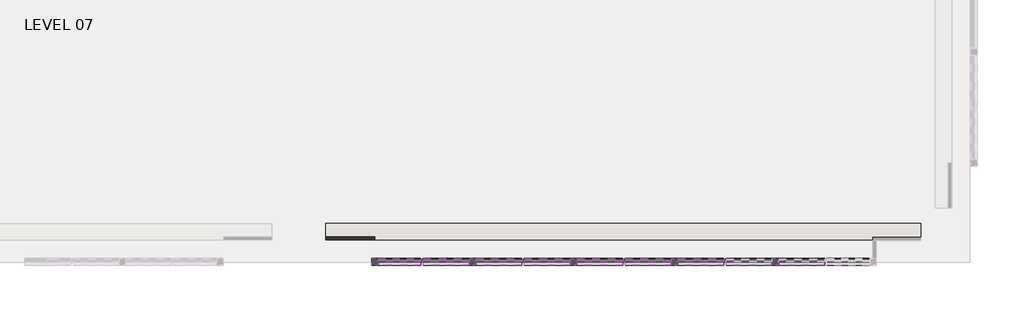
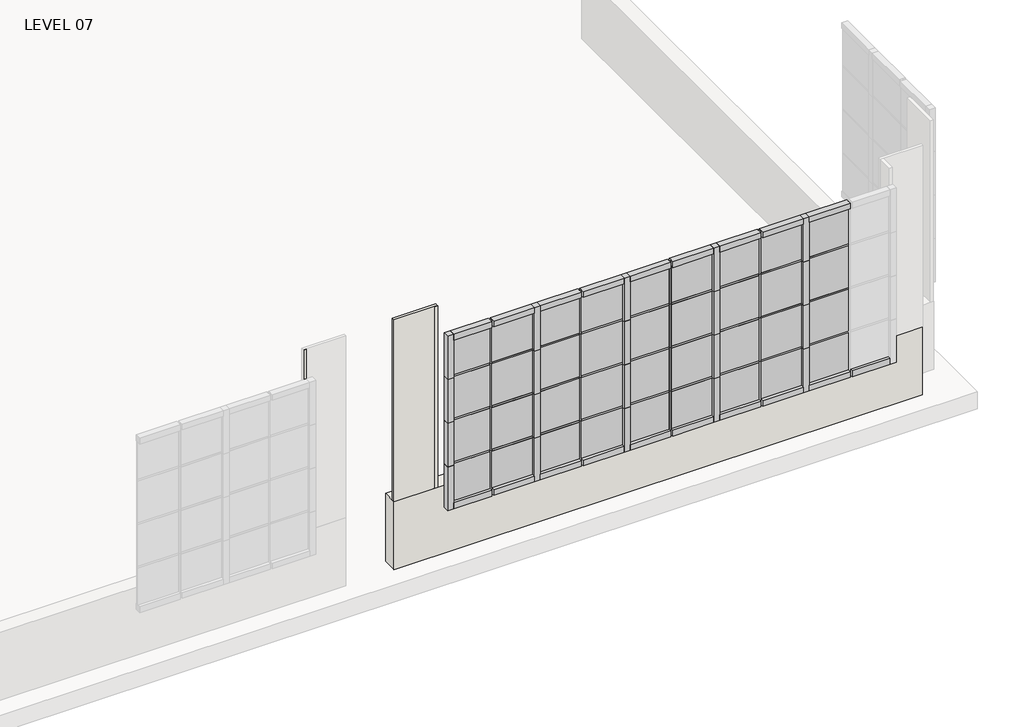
# One storey, part 6 of 15: 80 members, 36 plates, 4 walls.
"""IFC4 building model written with IfcOpenShell, lengths in millimetres."""

from ifc_helpers import new_model, si_unit, frame, origin, place, context, project, spatial, polyline, outline, extrude, faceted_brep, transform, mapped, element, save
from components import member_78bb2ef1, member_cb03ba1c, member_aa53491b, member_c1b5942e, member_9d26962d, member_378e0c06, member_17eb62f4, system_panel_glazed_79ade883, system_panel_glazed_12cc9f41, system_panel_glazed_730530c4, system_panel_glazed_b8d6571b

model = new_model("IFC4")

# Units and contexts
model_context = context("Model", 3, world=origin())
ifc_project = project(units=[si_unit("LENGTHUNIT", "METRE", prefix="MILLI")], contexts=[model_context])

# Site, building, storey
site = spatial("IfcSite", under=ifc_project)
building = spatial("IfcBuilding", under=site)
storey = spatial("IfcBuildingStorey", under=building, Name="LEVEL 07", Elevation=20802.6)

# Members
placement = place(None, origin())
member_shape = member_78bb2ef1(model_context)
element("IfcMember", 1, ObjectType="Rectangular Mullion : 1\" x 1\" - Butt Joint", at=placement, inside=storey, context=model_context, shape_type="MappedRepresentation", body=[
    mapped(member_shape, transform((-6655.9871136, -25119.8112062, 23342.6), x_axis=(1.0, 0.0, 0.0), y_axis=(0.0, -1.0, 0.0), z_axis=(0.0, 0.0, -1.0))),
])
element("IfcMember", 2, ObjectType="Rectangular Mullion : 1\" x 1\" - Butt Joint", at=placement, inside=storey, context=model_context, shape_type="MappedRepresentation", body=[
    mapped(member_shape, transform((-5518.0671136, -25119.8112062, 23342.6), x_axis=(1.0, 0.0, 0.0), y_axis=(0.0, -1.0, 0.0), z_axis=(0.0, 0.0, -1.0))),
])
element("IfcMember", 3, ObjectType="Rectangular Mullion : 1\" x 1\" - Butt Joint", at=placement, inside=storey, context=model_context, shape_type="MappedRepresentation", body=[
    mapped(member_shape, transform((-4380.1471136, -25119.8112062, 23342.6), x_axis=(1.0, 0.0, 0.0), y_axis=(0.0, -1.0, 0.0), z_axis=(0.0, 0.0, -1.0))),
])
element("IfcMember", 4, ObjectType="Rectangular Mullion : 1\" x 1\" - Butt Joint", at=placement, inside=storey, context=model_context, shape_type="MappedRepresentation", body=[
    mapped(member_shape, transform((-3242.2271136, -25119.8112062, 23342.6), x_axis=(1.0, 0.0, 0.0), y_axis=(0.0, -1.0, 0.0), z_axis=(0.0, 0.0, -1.0))),
])
member_2_shape = member_cb03ba1c(model_context)
element("IfcMember", 5, ObjectType="Rectangular Mullion : 1\" x 1\" - Butt Joint", at=placement, inside=storey, context=model_context, shape_type="MappedRepresentation", body=[
    mapped(member_2_shape, transform((-2711.3671136, -25119.8112062, 23342.6), x_axis=(0.0, 0.0, 1.0), y_axis=(0.0, -1.0, 0.0), z_axis=(1.0, 0.0, 0.0))),
])
element("IfcMember", 6, ObjectType="Rectangular Mullion : 1\" x 1\" - Butt Joint", at=placement, inside=storey, context=model_context, shape_type="MappedRepresentation", body=[
    mapped(member_2_shape, transform((-3849.2871136, -25119.8112062, 23342.6), x_axis=(0.0, 0.0, 1.0), y_axis=(0.0, -1.0, 0.0), z_axis=(1.0, 0.0, 0.0))),
])
element("IfcMember", 7, ObjectType="Rectangular Mullion : 1\" x 1\" - Butt Joint", at=placement, inside=storey, context=model_context, shape_type="MappedRepresentation", body=[
    mapped(member_2_shape, transform((-4987.2071136, -25119.8112062, 23342.6), x_axis=(0.0, 0.0, 1.0), y_axis=(0.0, -1.0, 0.0), z_axis=(1.0, 0.0, 0.0))),
])
element("IfcMember", 8, ObjectType="Rectangular Mullion : 1\" x 1\" - Butt Joint", at=placement, inside=storey, context=model_context, shape_type="MappedRepresentation", body=[
    mapped(member_2_shape, transform((-6125.1271136, -25119.8112062, 23342.6), x_axis=(0.0, 0.0, 1.0), y_axis=(0.0, -1.0, 0.0), z_axis=(1.0, 0.0, 0.0))),
])
element("IfcMember", 9, ObjectType="Rectangular Mullion : 1\" x 1\" - Butt Joint", at=placement, inside=storey, context=model_context, shape_type="MappedRepresentation", body=[
    mapped(member_2_shape, transform((-2117.0071136, -25119.8112062, 23342.6), x_axis=(0.0, 0.0, 1.0), y_axis=(0.0, -1.0, 0.0), z_axis=(1.0, 0.0, 0.0))),
])
element("IfcMember", 10, ObjectType="Rectangular Mullion : 1\" x 1\" - Butt Joint", at=placement, inside=storey, context=model_context, shape_type="MappedRepresentation", body=[
    mapped(member_2_shape, transform((-3254.9271136, -25119.8112062, 23342.6), x_axis=(0.0, 0.0, 1.0), y_axis=(0.0, -1.0, 0.0), z_axis=(1.0, 0.0, 0.0))),
])
element("IfcMember", 11, ObjectType="Rectangular Mullion : 1\" x 1\" - Butt Joint", at=placement, inside=storey, context=model_context, shape_type="MappedRepresentation", body=[
    mapped(member_2_shape, transform((-4392.8471136, -25119.8112062, 23342.6), x_axis=(0.0, 0.0, 1.0), y_axis=(0.0, -1.0, 0.0), z_axis=(1.0, 0.0, 0.0))),
])
element("IfcMember", 12, ObjectType="Rectangular Mullion : 1\" x 1\" - Butt Joint", at=placement, inside=storey, context=model_context, shape_type="MappedRepresentation", body=[
    mapped(member_2_shape, transform((-5530.7671136, -25119.8112062, 23342.6), x_axis=(0.0, 0.0, 1.0), y_axis=(0.0, -1.0, 0.0), z_axis=(1.0, 0.0, 0.0))),
])
element("IfcMember", 13, ObjectType="Rectangular Mullion : 1\" x 1\" - Butt Joint", at=placement, inside=storey, context=model_context, shape_type="MappedRepresentation", body=[
    mapped(member_2_shape, transform((-2711.3671136, -25119.8112062, 22758.4), x_axis=(0.0, 0.0, 1.0), y_axis=(0.0, -1.0, 0.0), z_axis=(1.0, 0.0, 0.0))),
])
element("IfcMember", 14, ObjectType="Rectangular Mullion : 1\" x 1\" - Butt Joint", at=placement, inside=storey, context=model_context, shape_type="MappedRepresentation", body=[
    mapped(member_2_shape, transform((-3849.2871136, -25119.8112062, 22758.4), x_axis=(0.0, 0.0, 1.0), y_axis=(0.0, -1.0, 0.0), z_axis=(1.0, 0.0, 0.0))),
])
element("IfcMember", 15, ObjectType="Rectangular Mullion : 1\" x 1\" - Butt Joint", at=placement, inside=storey, context=model_context, shape_type="MappedRepresentation", body=[
    mapped(member_2_shape, transform((-4987.2071136, -25119.8112062, 22758.4), x_axis=(0.0, 0.0, 1.0), y_axis=(0.0, -1.0, 0.0), z_axis=(1.0, 0.0, 0.0))),
])
element("IfcMember", 16, ObjectType="Rectangular Mullion : 1\" x 1\" - Butt Joint", at=placement, inside=storey, context=model_context, shape_type="MappedRepresentation", body=[
    mapped(member_2_shape, transform((-6125.1271136, -25119.8112062, 22758.4), x_axis=(0.0, 0.0, 1.0), y_axis=(0.0, -1.0, 0.0), z_axis=(1.0, 0.0, 0.0))),
])
element("IfcMember", 17, ObjectType="Rectangular Mullion : 1\" x 1\" - Butt Joint", at=placement, inside=storey, context=model_context, shape_type="MappedRepresentation", body=[
    mapped(member_2_shape, transform((-2117.0071136, -25119.8112062, 22758.4), x_axis=(0.0, 0.0, 1.0), y_axis=(0.0, -1.0, 0.0), z_axis=(1.0, 0.0, 0.0))),
])
element("IfcMember", 18, ObjectType="Rectangular Mullion : 1\" x 1\" - Butt Joint", at=placement, inside=storey, context=model_context, shape_type="MappedRepresentation", body=[
    mapped(member_2_shape, transform((-3254.9271136, -25119.8112062, 22758.4), x_axis=(0.0, 0.0, 1.0), y_axis=(0.0, -1.0, 0.0), z_axis=(1.0, 0.0, 0.0))),
])
element("IfcMember", 19, ObjectType="Rectangular Mullion : 1\" x 1\" - Butt Joint", at=placement, inside=storey, context=model_context, shape_type="MappedRepresentation", body=[
    mapped(member_2_shape, transform((-4392.8471136, -25119.8112062, 22758.4), x_axis=(0.0, 0.0, 1.0), y_axis=(0.0, -1.0, 0.0), z_axis=(1.0, 0.0, 0.0))),
])
element("IfcMember", 20, ObjectType="Rectangular Mullion : 1\" x 1\" - Butt Joint", at=placement, inside=storey, context=model_context, shape_type="MappedRepresentation", body=[
    mapped(member_2_shape, transform((-5530.7671136, -25119.8112062, 22758.4), x_axis=(0.0, 0.0, 1.0), y_axis=(0.0, -1.0, 0.0), z_axis=(1.0, 0.0, 0.0))),
])
element("IfcMember", 21, ObjectType="Rectangular Mullion : 1\" x 1\" - Butt Joint", at=placement, inside=storey, context=model_context, shape_type="MappedRepresentation", body=[
    mapped(member_2_shape, transform((-3849.2871136, -25119.8112062, 22174.2), x_axis=(0.0, 0.0, 1.0), y_axis=(0.0, -1.0, 0.0), z_axis=(1.0, 0.0, 0.0))),
])
element("IfcMember", 22, ObjectType="Rectangular Mullion : 1\" x 1\" - Butt Joint", at=placement, inside=storey, context=model_context, shape_type="MappedRepresentation", body=[
    mapped(member_2_shape, transform((-4987.2071136, -25119.8112062, 22174.2), x_axis=(0.0, 0.0, 1.0), y_axis=(0.0, -1.0, 0.0), z_axis=(1.0, 0.0, 0.0))),
])
element("IfcMember", 23, ObjectType="Rectangular Mullion : 1\" x 1\" - Butt Joint", at=placement, inside=storey, context=model_context, shape_type="MappedRepresentation", body=[
    mapped(member_2_shape, transform((-6125.1271136, -25119.8112062, 22174.2), x_axis=(0.0, 0.0, 1.0), y_axis=(0.0, -1.0, 0.0), z_axis=(1.0, 0.0, 0.0))),
])
element("IfcMember", 24, ObjectType="Rectangular Mullion : 1\" x 1\" - Butt Joint", at=placement, inside=storey, context=model_context, shape_type="MappedRepresentation", body=[
    mapped(member_2_shape, transform((-3254.9271136, -25119.8112062, 22174.2), x_axis=(0.0, 0.0, 1.0), y_axis=(0.0, -1.0, 0.0), z_axis=(1.0, 0.0, 0.0))),
])
element("IfcMember", 25, ObjectType="Rectangular Mullion : 1\" x 1\" - Butt Joint", at=placement, inside=storey, context=model_context, shape_type="MappedRepresentation", body=[
    mapped(member_2_shape, transform((-4392.8471136, -25119.8112062, 22174.2), x_axis=(0.0, 0.0, 1.0), y_axis=(0.0, -1.0, 0.0), z_axis=(1.0, 0.0, 0.0))),
])
element("IfcMember", 26, ObjectType="Rectangular Mullion : 1\" x 1\" - Butt Joint", at=placement, inside=storey, context=model_context, shape_type="MappedRepresentation", body=[
    mapped(member_2_shape, transform((-5530.7671136, -25119.8112062, 22174.2), x_axis=(0.0, 0.0, 1.0), y_axis=(0.0, -1.0, 0.0), z_axis=(1.0, 0.0, 0.0))),
])
member_3_shape = member_aa53491b(model_context)
element("IfcMember", 27, ObjectType="Rectangular Mullion : 1\" x 1\" - Butt Joint", at=placement, inside=storey, context=model_context, shape_type="MappedRepresentation", body=[
    mapped(member_3_shape, transform((-6668.6871136, -25119.8112062, 23342.6), x_axis=(0.0, 0.0, 1.0), y_axis=(0.0, -1.0, 0.0), z_axis=(1.0, 0.0, 0.0))),
])
element("IfcMember", 28, ObjectType="Rectangular Mullion : 1\" x 1\" - Butt Joint", at=placement, inside=storey, context=model_context, shape_type="MappedRepresentation", body=[
    mapped(member_3_shape, transform((-6668.6871136, -25119.8112062, 22758.4), x_axis=(0.0, 0.0, 1.0), y_axis=(0.0, -1.0, 0.0), z_axis=(1.0, 0.0, 0.0))),
])
element("IfcMember", 29, ObjectType="Rectangular Mullion : 1\" x 1\" - Butt Joint", at=placement, inside=storey, context=model_context, shape_type="MappedRepresentation", body=[
    mapped(member_3_shape, transform((-6668.6871136, -25119.8112062, 22174.2), x_axis=(0.0, 0.0, 1.0), y_axis=(0.0, -1.0, 0.0), z_axis=(1.0, 0.0, 0.0))),
])
element("IfcMember", 30, ObjectType="Rectangular Mullion : 1\" x 1\" - Butt Joint", at=placement, inside=storey, context=model_context, shape_type="MappedRepresentation", body=[
    mapped(member_shape, transform((-6655.9871136, -25119.8112062, 22758.4), x_axis=(1.0, 0.0, 0.0), y_axis=(0.0, -1.0, 0.0), z_axis=(0.0, 0.0, -1.0))),
])
element("IfcMember", 31, ObjectType="Rectangular Mullion : 1\" x 1\" - Butt Joint", at=placement, inside=storey, context=model_context, shape_type="MappedRepresentation", body=[
    mapped(member_shape, transform((-6655.9871136, -25119.8112062, 22174.2), x_axis=(1.0, 0.0, 0.0), y_axis=(0.0, -1.0, 0.0), z_axis=(0.0, 0.0, -1.0))),
])
element("IfcMember", 32, ObjectType="Rectangular Mullion : 1\" x 1\" - Butt Joint", at=placement, inside=storey, context=model_context, shape_type="MappedRepresentation", body=[
    mapped(member_shape, transform((-5518.0671136, -25119.8112062, 22758.4), x_axis=(1.0, 0.0, 0.0), y_axis=(0.0, -1.0, 0.0), z_axis=(0.0, 0.0, -1.0))),
])
element("IfcMember", 33, ObjectType="Rectangular Mullion : 1\" x 1\" - Butt Joint", at=placement, inside=storey, context=model_context, shape_type="MappedRepresentation", body=[
    mapped(member_shape, transform((-5518.0671136, -25119.8112062, 22174.2), x_axis=(1.0, 0.0, 0.0), y_axis=(0.0, -1.0, 0.0), z_axis=(0.0, 0.0, -1.0))),
])
element("IfcMember", 34, ObjectType="Rectangular Mullion : 1\" x 1\" - Butt Joint", at=placement, inside=storey, context=model_context, shape_type="MappedRepresentation", body=[
    mapped(member_shape, transform((-4380.1471136, -25119.8112062, 22758.4), x_axis=(1.0, 0.0, 0.0), y_axis=(0.0, -1.0, 0.0), z_axis=(0.0, 0.0, -1.0))),
])
element("IfcMember", 35, ObjectType="Rectangular Mullion : 1\" x 1\" - Butt Joint", at=placement, inside=storey, context=model_context, shape_type="MappedRepresentation", body=[
    mapped(member_shape, transform((-4380.1471136, -25119.8112062, 22174.2), x_axis=(1.0, 0.0, 0.0), y_axis=(0.0, -1.0, 0.0), z_axis=(0.0, 0.0, -1.0))),
])
element("IfcMember", 36, ObjectType="Rectangular Mullion : 1\" x 1\" - Butt Joint", at=placement, inside=storey, context=model_context, shape_type="MappedRepresentation", body=[
    mapped(member_shape, transform((-3242.2271136, -25119.8112062, 22758.4), x_axis=(1.0, 0.0, 0.0), y_axis=(0.0, -1.0, 0.0), z_axis=(0.0, 0.0, -1.0))),
])
element("IfcMember", 37, ObjectType="Rectangular Mullion : 1\" x 1\" - Butt Joint", at=placement, inside=storey, context=model_context, shape_type="MappedRepresentation", body=[
    mapped(member_shape, transform((-3242.2271136, -25119.8112062, 22174.2), x_axis=(1.0, 0.0, 0.0), y_axis=(0.0, -1.0, 0.0), z_axis=(0.0, 0.0, -1.0))),
])
element("IfcMember", 38, ObjectType="Rectangular Mullion : 1\" x 1\" - Butt Joint", at=placement, inside=storey, context=model_context, shape_type="MappedRepresentation", body=[
    mapped(member_shape, transform((-6655.9871136, -25119.8112062, 21590.0), x_axis=(1.0, 0.0, 0.0), y_axis=(0.0, -1.0, 0.0), z_axis=(0.0, 0.0, -1.0))),
])
element("IfcMember", 39, ObjectType="Rectangular Mullion : 1\" x 1\" - Butt Joint", at=placement, inside=storey, context=model_context, shape_type="MappedRepresentation", body=[
    mapped(member_shape, transform((-5518.0671136, -25119.8112062, 21590.0), x_axis=(1.0, 0.0, 0.0), y_axis=(0.0, -1.0, 0.0), z_axis=(0.0, 0.0, -1.0))),
])
element("IfcMember", 40, ObjectType="Rectangular Mullion : 1\" x 1\" - Butt Joint", at=placement, inside=storey, context=model_context, shape_type="MappedRepresentation", body=[
    mapped(member_shape, transform((-4380.1471136, -25119.8112062, 21590.0), x_axis=(1.0, 0.0, 0.0), y_axis=(0.0, -1.0, 0.0), z_axis=(0.0, 0.0, -1.0))),
])
element("IfcMember", 41, ObjectType="Rectangular Mullion : 1\" x 1\" - Butt Joint", at=placement, inside=storey, context=model_context, shape_type="MappedRepresentation", body=[
    mapped(member_shape, transform((-3242.2271136, -25119.8112062, 21590.0), x_axis=(1.0, 0.0, 0.0), y_axis=(0.0, -1.0, 0.0), z_axis=(0.0, 0.0, -1.0))),
])
member_4_shape = member_c1b5942e(model_context)
element("IfcMember", 42, ObjectType="Rectangular Mullion : 3\" x 3\" Window Jamb", at=placement, inside=storey, context=model_context, shape_type="MappedRepresentation", body=[
    mapped(member_4_shape, transform((-3229.5271136, -25119.8112062, 21590.0), x_axis=(0.0, 0.0, -1.0), y_axis=(0.0, -1.0, 0.0), z_axis=(-1.0, 0.0, 0.0))),
])
element("IfcMember", 43, ObjectType="Rectangular Mullion : 3\" x 3\" Window Jamb", at=placement, inside=storey, context=model_context, shape_type="MappedRepresentation", body=[
    mapped(member_4_shape, transform((-4367.4471136, -25119.8112062, 21590.0), x_axis=(0.0, 0.0, -1.0), y_axis=(0.0, -1.0, 0.0), z_axis=(-1.0, 0.0, 0.0))),
])
element("IfcMember", 44, ObjectType="Rectangular Mullion : 3\" x 3\" Window Jamb", at=placement, inside=storey, context=model_context, shape_type="MappedRepresentation", body=[
    mapped(member_4_shape, transform((-5505.3671136, -25119.8112062, 21590.0), x_axis=(0.0, 0.0, -1.0), y_axis=(0.0, -1.0, 0.0), z_axis=(-1.0, 0.0, 0.0))),
])
element("IfcMember", 45, ObjectType="Rectangular Mullion : 3\" x 3\" Window Jamb", at=placement, inside=storey, context=model_context, shape_type="MappedRepresentation", body=[
    mapped(member_4_shape, transform((-6643.2871136, -25119.8112062, 21590.0), x_axis=(0.0, 0.0, -1.0), y_axis=(0.0, -1.0, 0.0), z_axis=(-1.0, 0.0, 0.0))),
])
element("IfcMember", 46, ObjectType="Rectangular Mullion : 3\" x 3\" Window Jamb", at=placement, inside=storey, context=model_context, shape_type="MappedRepresentation", body=[
    mapped(member_4_shape, transform((-2635.1671136, -25119.8112062, 21590.0), x_axis=(0.0, 0.0, -1.0), y_axis=(0.0, -1.0, 0.0), z_axis=(-1.0, 0.0, 0.0))),
])
element("IfcMember", 47, ObjectType="Rectangular Mullion : 3\" x 3\" Window Jamb", at=placement, inside=storey, context=model_context, shape_type="MappedRepresentation", body=[
    mapped(member_4_shape, transform((-3773.0871136, -25119.8112062, 21590.0), x_axis=(0.0, 0.0, -1.0), y_axis=(0.0, -1.0, 0.0), z_axis=(-1.0, 0.0, 0.0))),
])
element("IfcMember", 48, ObjectType="Rectangular Mullion : 3\" x 3\" Window Jamb", at=placement, inside=storey, context=model_context, shape_type="MappedRepresentation", body=[
    mapped(member_4_shape, transform((-4911.0071136, -25119.8112062, 21590.0), x_axis=(0.0, 0.0, -1.0), y_axis=(0.0, -1.0, 0.0), z_axis=(-1.0, 0.0, 0.0))),
])
element("IfcMember", 49, ObjectType="Rectangular Mullion : 3\" x 3\" Window Jamb", at=placement, inside=storey, context=model_context, shape_type="MappedRepresentation", body=[
    mapped(member_4_shape, transform((-6048.9271136, -25119.8112062, 21590.0), x_axis=(0.0, 0.0, -1.0), y_axis=(0.0, -1.0, 0.0), z_axis=(-1.0, 0.0, 0.0))),
])
member_5_shape = member_9d26962d(model_context)
element("IfcMember", 50, ObjectType="Rectangular Mullion : 3\" x 3\" Window Jamb", at=placement, inside=storey, context=model_context, shape_type="MappedRepresentation", body=[
    mapped(member_5_shape, transform((-2091.6071136, -25119.8112062, 21590.0), x_axis=(0.0, 0.0, -1.0), y_axis=(0.0, -1.0, 0.0), z_axis=(-1.0, 0.0, 0.0))),
])
element("IfcMember", 51, ObjectType="Rectangular Mullion : 3\" x 3\" Window Jamb", at=placement, inside=storey, context=model_context, shape_type="MappedRepresentation", body=[
    mapped(member_5_shape, transform((-7148.7471136, -25119.8112062, 21590.0), x_axis=(0.0, 0.0, -1.0), y_axis=(0.0, -1.0, 0.0), z_axis=(-1.0, 0.0, 0.0))),
])
element("IfcMember", 52, ObjectType="Rectangular Mullion : 3\" x 3\" Window Jamb", at=placement, inside=storey, context=model_context, shape_type="MappedRepresentation", body=[
    mapped(member_5_shape, transform((-6668.6871136, -25119.8112062, 23926.8), x_axis=(0.0, 0.0, 1.0), y_axis=(0.0, -1.0, 0.0), z_axis=(1.0, 0.0, 0.0))),
])
element("IfcMember", 53, ObjectType="Rectangular Mullion : 3\" x 3\" Window Jamb", at=placement, inside=storey, context=model_context, shape_type="MappedRepresentation", body=[
    mapped(member_4_shape, transform((-2117.0071136, -25119.8112062, 23926.8), x_axis=(0.0, 0.0, 1.0), y_axis=(0.0, -1.0, 0.0), z_axis=(1.0, 0.0, 0.0))),
])
element("IfcMember", 54, ObjectType="Rectangular Mullion : 3\" x 3\" Window Jamb", at=placement, inside=storey, context=model_context, shape_type="MappedRepresentation", body=[
    mapped(member_4_shape, transform((-3254.9271136, -25119.8112062, 23926.8), x_axis=(0.0, 0.0, 1.0), y_axis=(0.0, -1.0, 0.0), z_axis=(1.0, 0.0, 0.0))),
])
element("IfcMember", 55, ObjectType="Rectangular Mullion : 3\" x 3\" Window Jamb", at=placement, inside=storey, context=model_context, shape_type="MappedRepresentation", body=[
    mapped(member_4_shape, transform((-4392.8471136, -25119.8112062, 23926.8), x_axis=(0.0, 0.0, 1.0), y_axis=(0.0, -1.0, 0.0), z_axis=(1.0, 0.0, 0.0))),
])
element("IfcMember", 56, ObjectType="Rectangular Mullion : 3\" x 3\" Window Jamb", at=placement, inside=storey, context=model_context, shape_type="MappedRepresentation", body=[
    mapped(member_4_shape, transform((-5530.7671136, -25119.8112062, 23926.8), x_axis=(0.0, 0.0, 1.0), y_axis=(0.0, -1.0, 0.0), z_axis=(1.0, 0.0, 0.0))),
])
element("IfcMember", 57, ObjectType="Rectangular Mullion : 3\" x 3\" Window Jamb", at=placement, inside=storey, context=model_context, shape_type="MappedRepresentation", body=[
    mapped(member_4_shape, transform((-2711.3671136, -25119.8112062, 23926.8), x_axis=(0.0, 0.0, 1.0), y_axis=(0.0, -1.0, 0.0), z_axis=(1.0, 0.0, 0.0))),
])
element("IfcMember", 58, ObjectType="Rectangular Mullion : 3\" x 3\" Window Jamb", at=placement, inside=storey, context=model_context, shape_type="MappedRepresentation", body=[
    mapped(member_4_shape, transform((-3849.2871136, -25119.8112062, 23926.8), x_axis=(0.0, 0.0, 1.0), y_axis=(0.0, -1.0, 0.0), z_axis=(1.0, 0.0, 0.0))),
])
element("IfcMember", 59, ObjectType="Rectangular Mullion : 3\" x 3\" Window Jamb", at=placement, inside=storey, context=model_context, shape_type="MappedRepresentation", body=[
    mapped(member_4_shape, transform((-4987.2071136, -25119.8112062, 23926.8), x_axis=(0.0, 0.0, 1.0), y_axis=(0.0, -1.0, 0.0), z_axis=(1.0, 0.0, 0.0))),
])
element("IfcMember", 60, ObjectType="Rectangular Mullion : 3\" x 3\" Window Jamb", at=placement, inside=storey, context=model_context, shape_type="MappedRepresentation", body=[
    mapped(member_4_shape, transform((-6125.1271136, -25119.8112062, 23926.8), x_axis=(0.0, 0.0, 1.0), y_axis=(0.0, -1.0, 0.0), z_axis=(1.0, 0.0, 0.0))),
])
member_6_shape = member_378e0c06(model_context)
element("IfcMember", 61, ObjectType="Rectangular Mullion : 3\" x 3\" Window Jamb", at=placement, inside=storey, context=model_context, shape_type="MappedRepresentation", body=[
    mapped(member_6_shape, transform((-6087.0271136, -25119.8112062, 23342.6), x_axis=(1.0, 0.0, 0.0), y_axis=(0.0, -1.0, 0.0), z_axis=(0.0, 0.0, -1.0))),
])
element("IfcMember", 62, ObjectType="Rectangular Mullion : 3\" x 3\" Window Jamb", at=placement, inside=storey, context=model_context, shape_type="MappedRepresentation", body=[
    mapped(member_6_shape, transform((-4949.1071136, -25119.8112062, 23342.6), x_axis=(1.0, 0.0, 0.0), y_axis=(0.0, -1.0, 0.0), z_axis=(0.0, 0.0, -1.0))),
])
element("IfcMember", 63, ObjectType="Rectangular Mullion : 3\" x 3\" Window Jamb", at=placement, inside=storey, context=model_context, shape_type="MappedRepresentation", body=[
    mapped(member_6_shape, transform((-3811.1871136, -25119.8112062, 23342.6), x_axis=(1.0, 0.0, 0.0), y_axis=(0.0, -1.0, 0.0), z_axis=(0.0, 0.0, -1.0))),
])
element("IfcMember", 64, ObjectType="Rectangular Mullion : 3\" x 3\" Window Jamb", at=placement, inside=storey, context=model_context, shape_type="MappedRepresentation", body=[
    mapped(member_6_shape, transform((-2673.2671136, -25119.8112062, 23342.6), x_axis=(1.0, 0.0, 0.0), y_axis=(0.0, -1.0, 0.0), z_axis=(0.0, 0.0, -1.0))),
])
member_7_shape = member_17eb62f4(model_context)
element("IfcMember", 65, ObjectType="Rectangular Mullion : 3\" x 3\" Window Jamb", at=placement, inside=storey, context=model_context, shape_type="MappedRepresentation", body=[
    mapped(member_7_shape, transform((-7224.9471136, -25119.8112062, 23926.8), x_axis=(-1.0, 0.0, 0.0), y_axis=(0.0, -1.0, 0.0), z_axis=(0.0, 0.0, 1.0))),
])
element("IfcMember", 66, ObjectType="Rectangular Mullion : 3\" x 3\" Window Jamb", at=placement, inside=storey, context=model_context, shape_type="MappedRepresentation", body=[
    mapped(member_6_shape, transform((-6087.0271136, -25119.8112062, 22758.4), x_axis=(1.0, 0.0, 0.0), y_axis=(0.0, -1.0, 0.0), z_axis=(0.0, 0.0, -1.0))),
])
element("IfcMember", 67, ObjectType="Rectangular Mullion : 3\" x 3\" Window Jamb", at=placement, inside=storey, context=model_context, shape_type="MappedRepresentation", body=[
    mapped(member_6_shape, transform((-6087.0271136, -25119.8112062, 22174.2), x_axis=(1.0, 0.0, 0.0), y_axis=(0.0, -1.0, 0.0), z_axis=(0.0, 0.0, -1.0))),
])
element("IfcMember", 68, ObjectType="Rectangular Mullion : 3\" x 3\" Window Jamb", at=placement, inside=storey, context=model_context, shape_type="MappedRepresentation", body=[
    mapped(member_6_shape, transform((-4949.1071136, -25119.8112062, 22758.4), x_axis=(1.0, 0.0, 0.0), y_axis=(0.0, -1.0, 0.0), z_axis=(0.0, 0.0, -1.0))),
])
element("IfcMember", 69, ObjectType="Rectangular Mullion : 3\" x 3\" Window Jamb", at=placement, inside=storey, context=model_context, shape_type="MappedRepresentation", body=[
    mapped(member_6_shape, transform((-4949.1071136, -25119.8112062, 22174.2), x_axis=(1.0, 0.0, 0.0), y_axis=(0.0, -1.0, 0.0), z_axis=(0.0, 0.0, -1.0))),
])
element("IfcMember", 70, ObjectType="Rectangular Mullion : 3\" x 3\" Window Jamb", at=placement, inside=storey, context=model_context, shape_type="MappedRepresentation", body=[
    mapped(member_6_shape, transform((-3811.1871136, -25119.8112062, 22758.4), x_axis=(1.0, 0.0, 0.0), y_axis=(0.0, -1.0, 0.0), z_axis=(0.0, 0.0, -1.0))),
])
element("IfcMember", 71, ObjectType="Rectangular Mullion : 3\" x 3\" Window Jamb", at=placement, inside=storey, context=model_context, shape_type="MappedRepresentation", body=[
    mapped(member_6_shape, transform((-3811.1871136, -25119.8112062, 22174.2), x_axis=(1.0, 0.0, 0.0), y_axis=(0.0, -1.0, 0.0), z_axis=(0.0, 0.0, -1.0))),
])
element("IfcMember", 72, ObjectType="Rectangular Mullion : 3\" x 3\" Window Jamb", at=placement, inside=storey, context=model_context, shape_type="MappedRepresentation", body=[
    mapped(member_6_shape, transform((-2673.2671136, -25119.8112062, 22758.4), x_axis=(1.0, 0.0, 0.0), y_axis=(0.0, -1.0, 0.0), z_axis=(0.0, 0.0, -1.0))),
])
element("IfcMember", 73, ObjectType="Rectangular Mullion : 3\" x 3\" Window Jamb", at=placement, inside=storey, context=model_context, shape_type="MappedRepresentation", body=[
    mapped(member_6_shape, transform((-2673.2671136, -25119.8112062, 22174.2), x_axis=(1.0, 0.0, 0.0), y_axis=(0.0, -1.0, 0.0), z_axis=(0.0, 0.0, -1.0))),
])
element("IfcMember", 74, ObjectType="Rectangular Mullion : 3\" x 3\" Window Jamb", at=placement, inside=storey, context=model_context, shape_type="MappedRepresentation", body=[
    mapped(member_7_shape, transform((-7224.9471136, -25119.8112062, 23342.6), x_axis=(-1.0, 0.0, 0.0), y_axis=(0.0, -1.0, 0.0), z_axis=(0.0, 0.0, 1.0))),
])
element("IfcMember", 75, ObjectType="Rectangular Mullion : 3\" x 3\" Window Jamb", at=placement, inside=storey, context=model_context, shape_type="MappedRepresentation", body=[
    mapped(member_7_shape, transform((-7224.9471136, -25119.8112062, 22758.4), x_axis=(-1.0, 0.0, 0.0), y_axis=(0.0, -1.0, 0.0), z_axis=(0.0, 0.0, 1.0))),
])
element("IfcMember", 76, ObjectType="Rectangular Mullion : 3\" x 3\" Window Jamb", at=placement, inside=storey, context=model_context, shape_type="MappedRepresentation", body=[
    mapped(member_6_shape, transform((-6087.0271136, -25119.8112062, 21590.0), x_axis=(1.0, 0.0, 0.0), y_axis=(0.0, -1.0, 0.0), z_axis=(0.0, 0.0, -1.0))),
])
element("IfcMember", 77, ObjectType="Rectangular Mullion : 3\" x 3\" Window Jamb", at=placement, inside=storey, context=model_context, shape_type="MappedRepresentation", body=[
    mapped(member_6_shape, transform((-4949.1071136, -25119.8112062, 21590.0), x_axis=(1.0, 0.0, 0.0), y_axis=(0.0, -1.0, 0.0), z_axis=(0.0, 0.0, -1.0))),
])
element("IfcMember", 78, ObjectType="Rectangular Mullion : 3\" x 3\" Window Jamb", at=placement, inside=storey, context=model_context, shape_type="MappedRepresentation", body=[
    mapped(member_6_shape, transform((-3811.1871136, -25119.8112062, 21590.0), x_axis=(1.0, 0.0, 0.0), y_axis=(0.0, -1.0, 0.0), z_axis=(0.0, 0.0, -1.0))),
])
element("IfcMember", 79, ObjectType="Rectangular Mullion : 3\" x 3\" Window Jamb", at=placement, inside=storey, context=model_context, shape_type="MappedRepresentation", body=[
    mapped(member_6_shape, transform((-2673.2671136, -25119.8112062, 21590.0), x_axis=(1.0, 0.0, 0.0), y_axis=(0.0, -1.0, 0.0), z_axis=(0.0, 0.0, -1.0))),
])
element("IfcMember", 80, ObjectType="Rectangular Mullion : 3\" x 3\" Window Jamb", at=placement, inside=storey, context=model_context, shape_type="MappedRepresentation", body=[
    mapped(member_7_shape, transform((-7224.9471136, -25119.8112062, 22174.2), x_axis=(-1.0, 0.0, 0.0), y_axis=(0.0, -1.0, 0.0), z_axis=(0.0, 0.0, 1.0))),
])

# Plates
system_panel_glazed_shape = system_panel_glazed_79ade883(model_context)
element("IfcPlate", 81, ObjectType="System Panel : Glazed", at=placement, inside=storey, context=model_context, shape_type="MappedRepresentation", body=[
    mapped(system_panel_glazed_shape, transform((-6908.7171136, -25119.8112062, 21666.2), x_axis=(1.0, 0.0, 0.0), y_axis=(0.0, 1.0, 0.0), z_axis=(0.0, 0.0, 1.0))),
])
element("IfcPlate", 82, ObjectType="System Panel : Glazed", at=placement, inside=storey, context=model_context, shape_type="MappedRepresentation", body=[
    mapped(system_panel_glazed_shape, transform((-6908.7171136, -25119.8112062, 23355.3), x_axis=(1.0, 0.0, 0.0), y_axis=(0.0, 1.0, 0.0), z_axis=(0.0, 0.0, 1.0))),
])
system_panel_glazed_2_shape = system_panel_glazed_12cc9f41(model_context)
element("IfcPlate", 83, ObjectType="System Panel : Glazed", at=placement, inside=storey, context=model_context, shape_type="MappedRepresentation", body=[
    mapped(system_panel_glazed_2_shape, transform((-5789.8471136, -25119.8112062, 21666.2), x_axis=(1.0, 0.0, 0.0), y_axis=(0.0, 1.0, 0.0), z_axis=(0.0, 0.0, 1.0))),
])
element("IfcPlate", 84, ObjectType="System Panel : Glazed", at=placement, inside=storey, context=model_context, shape_type="MappedRepresentation", body=[
    mapped(system_panel_glazed_2_shape, transform((-4651.9271136, -25119.8112062, 21666.2), x_axis=(1.0, 0.0, 0.0), y_axis=(0.0, 1.0, 0.0), z_axis=(0.0, 0.0, 1.0))),
])
element("IfcPlate", 85, ObjectType="System Panel : Glazed", at=placement, inside=storey, context=model_context, shape_type="MappedRepresentation", body=[
    mapped(system_panel_glazed_2_shape, transform((-3514.0071136, -25119.8112062, 21666.2), x_axis=(1.0, 0.0, 0.0), y_axis=(0.0, 1.0, 0.0), z_axis=(0.0, 0.0, 1.0))),
])
element("IfcPlate", 86, ObjectType="System Panel : Glazed", at=placement, inside=storey, context=model_context, shape_type="MappedRepresentation", body=[
    mapped(system_panel_glazed_2_shape, transform((-2376.0871136, -25119.8112062, 21666.2), x_axis=(1.0, 0.0, 0.0), y_axis=(0.0, 1.0, 0.0), z_axis=(0.0, 0.0, 1.0))),
])
element("IfcPlate", 87, ObjectType="System Panel : Glazed", at=placement, inside=storey, context=model_context, shape_type="MappedRepresentation", body=[
    mapped(system_panel_glazed_2_shape, transform((-5789.8471136, -25119.8112062, 23355.3), x_axis=(1.0, 0.0, 0.0), y_axis=(0.0, 1.0, 0.0), z_axis=(0.0, 0.0, 1.0))),
])
element("IfcPlate", 88, ObjectType="System Panel : Glazed", at=placement, inside=storey, context=model_context, shape_type="MappedRepresentation", body=[
    mapped(system_panel_glazed_2_shape, transform((-4651.9271136, -25119.8112062, 23355.3), x_axis=(1.0, 0.0, 0.0), y_axis=(0.0, 1.0, 0.0), z_axis=(0.0, 0.0, 1.0))),
])
element("IfcPlate", 89, ObjectType="System Panel : Glazed", at=placement, inside=storey, context=model_context, shape_type="MappedRepresentation", body=[
    mapped(system_panel_glazed_2_shape, transform((-3514.0071136, -25119.8112062, 23355.3), x_axis=(1.0, 0.0, 0.0), y_axis=(0.0, 1.0, 0.0), z_axis=(0.0, 0.0, 1.0))),
])
element("IfcPlate", 90, ObjectType="System Panel : Glazed", at=placement, inside=storey, context=model_context, shape_type="MappedRepresentation", body=[
    mapped(system_panel_glazed_2_shape, transform((-2376.0871136, -25119.8112062, 23355.3), x_axis=(1.0, 0.0, 0.0), y_axis=(0.0, 1.0, 0.0), z_axis=(0.0, 0.0, 1.0))),
])
element("IfcPlate", 91, ObjectType="System Panel : Glazed", at=placement, inside=storey, context=model_context, shape_type="MappedRepresentation", body=[
    mapped(system_panel_glazed_2_shape, transform((-6384.2071136, -25119.8112062, 21666.2), x_axis=(1.0, 0.0, 0.0), y_axis=(0.0, 1.0, 0.0), z_axis=(0.0, 0.0, 1.0))),
])
element("IfcPlate", 92, ObjectType="System Panel : Glazed", at=placement, inside=storey, context=model_context, shape_type="MappedRepresentation", body=[
    mapped(system_panel_glazed_2_shape, transform((-6384.2071136, -25119.8112062, 23355.3), x_axis=(1.0, 0.0, 0.0), y_axis=(0.0, 1.0, 0.0), z_axis=(0.0, 0.0, 1.0))),
])
element("IfcPlate", 93, ObjectType="System Panel : Glazed", at=placement, inside=storey, context=model_context, shape_type="MappedRepresentation", body=[
    mapped(system_panel_glazed_2_shape, transform((-5246.2871136, -25119.8112062, 21666.2), x_axis=(1.0, 0.0, 0.0), y_axis=(0.0, 1.0, 0.0), z_axis=(0.0, 0.0, 1.0))),
])
element("IfcPlate", 94, ObjectType="System Panel : Glazed", at=placement, inside=storey, context=model_context, shape_type="MappedRepresentation", body=[
    mapped(system_panel_glazed_2_shape, transform((-5246.2871136, -25119.8112062, 23355.3), x_axis=(1.0, 0.0, 0.0), y_axis=(0.0, 1.0, 0.0), z_axis=(0.0, 0.0, 1.0))),
])
element("IfcPlate", 95, ObjectType="System Panel : Glazed", at=placement, inside=storey, context=model_context, shape_type="MappedRepresentation", body=[
    mapped(system_panel_glazed_2_shape, transform((-4108.3671136, -25119.8112062, 21666.2), x_axis=(1.0, 0.0, 0.0), y_axis=(0.0, 1.0, 0.0), z_axis=(0.0, 0.0, 1.0))),
])
element("IfcPlate", 96, ObjectType="System Panel : Glazed", at=placement, inside=storey, context=model_context, shape_type="MappedRepresentation", body=[
    mapped(system_panel_glazed_2_shape, transform((-4108.3671136, -25119.8112062, 23355.3), x_axis=(1.0, 0.0, 0.0), y_axis=(0.0, 1.0, 0.0), z_axis=(0.0, 0.0, 1.0))),
])
element("IfcPlate", 97, ObjectType="System Panel : Glazed", at=placement, inside=storey, context=model_context, shape_type="MappedRepresentation", body=[
    mapped(system_panel_glazed_2_shape, transform((-2970.4471136, -25119.8112062, 21666.2), x_axis=(1.0, 0.0, 0.0), y_axis=(0.0, 1.0, 0.0), z_axis=(0.0, 0.0, 1.0))),
])
element("IfcPlate", 98, ObjectType="System Panel : Glazed", at=placement, inside=storey, context=model_context, shape_type="MappedRepresentation", body=[
    mapped(system_panel_glazed_2_shape, transform((-2970.4471136, -25119.8112062, 23355.3), x_axis=(1.0, 0.0, 0.0), y_axis=(0.0, 1.0, 0.0), z_axis=(0.0, 0.0, 1.0))),
])
system_panel_glazed_3_shape = system_panel_glazed_730530c4(model_context)
element("IfcPlate", 99, ObjectType="System Panel : Glazed", at=placement, inside=storey, context=model_context, shape_type="MappedRepresentation", body=[
    mapped(system_panel_glazed_3_shape, transform((-6908.7171136, -25119.8112062, 22186.9), x_axis=(1.0, 0.0, 0.0), y_axis=(0.0, 1.0, 0.0), z_axis=(0.0, 0.0, 1.0))),
])
element("IfcPlate", 100, ObjectType="System Panel : Glazed", at=placement, inside=storey, context=model_context, shape_type="MappedRepresentation", body=[
    mapped(system_panel_glazed_3_shape, transform((-6908.7171136, -25119.8112062, 22771.1), x_axis=(1.0, 0.0, 0.0), y_axis=(0.0, 1.0, 0.0), z_axis=(0.0, 0.0, 1.0))),
])
system_panel_glazed_4_shape = system_panel_glazed_b8d6571b(model_context)
element("IfcPlate", 101, ObjectType="System Panel : Glazed", at=placement, inside=storey, context=model_context, shape_type="MappedRepresentation", body=[
    mapped(system_panel_glazed_4_shape, transform((-5789.8471136, -25119.8112062, 22186.9), x_axis=(1.0, 0.0, 0.0), y_axis=(0.0, 1.0, 0.0), z_axis=(0.0, 0.0, 1.0))),
])
element("IfcPlate", 102, ObjectType="System Panel : Glazed", at=placement, inside=storey, context=model_context, shape_type="MappedRepresentation", body=[
    mapped(system_panel_glazed_4_shape, transform((-4651.9271136, -25119.8112062, 22186.9), x_axis=(1.0, 0.0, 0.0), y_axis=(0.0, 1.0, 0.0), z_axis=(0.0, 0.0, 1.0))),
])
element("IfcPlate", 103, ObjectType="System Panel : Glazed", at=placement, inside=storey, context=model_context, shape_type="MappedRepresentation", body=[
    mapped(system_panel_glazed_4_shape, transform((-3514.0071136, -25119.8112062, 22186.9), x_axis=(1.0, 0.0, 0.0), y_axis=(0.0, 1.0, 0.0), z_axis=(0.0, 0.0, 1.0))),
])
element("IfcPlate", 104, ObjectType="System Panel : Glazed", at=placement, inside=storey, context=model_context, shape_type="MappedRepresentation", body=[
    mapped(system_panel_glazed_4_shape, transform((-2376.0871136, -25119.8112062, 22186.9), x_axis=(1.0, 0.0, 0.0), y_axis=(0.0, 1.0, 0.0), z_axis=(0.0, 0.0, 1.0))),
])
element("IfcPlate", 105, ObjectType="System Panel : Glazed", at=placement, inside=storey, context=model_context, shape_type="MappedRepresentation", body=[
    mapped(system_panel_glazed_4_shape, transform((-5789.8471136, -25119.8112062, 22771.1), x_axis=(1.0, 0.0, 0.0), y_axis=(0.0, 1.0, 0.0), z_axis=(0.0, 0.0, 1.0))),
])
element("IfcPlate", 106, ObjectType="System Panel : Glazed", at=placement, inside=storey, context=model_context, shape_type="MappedRepresentation", body=[
    mapped(system_panel_glazed_4_shape, transform((-4651.9271136, -25119.8112062, 22771.1), x_axis=(1.0, 0.0, 0.0), y_axis=(0.0, 1.0, 0.0), z_axis=(0.0, 0.0, 1.0))),
])
element("IfcPlate", 107, ObjectType="System Panel : Glazed", at=placement, inside=storey, context=model_context, shape_type="MappedRepresentation", body=[
    mapped(system_panel_glazed_4_shape, transform((-3514.0071136, -25119.8112062, 22771.1), x_axis=(1.0, 0.0, 0.0), y_axis=(0.0, 1.0, 0.0), z_axis=(0.0, 0.0, 1.0))),
])
element("IfcPlate", 108, ObjectType="System Panel : Glazed", at=placement, inside=storey, context=model_context, shape_type="MappedRepresentation", body=[
    mapped(system_panel_glazed_4_shape, transform((-2376.0871136, -25119.8112062, 22771.1), x_axis=(1.0, 0.0, 0.0), y_axis=(0.0, 1.0, 0.0), z_axis=(0.0, 0.0, 1.0))),
])
element("IfcPlate", 109, ObjectType="System Panel : Glazed", at=placement, inside=storey, context=model_context, shape_type="MappedRepresentation", body=[
    mapped(system_panel_glazed_4_shape, transform((-6384.2071136, -25119.8112062, 22186.9), x_axis=(1.0, 0.0, 0.0), y_axis=(0.0, 1.0, 0.0), z_axis=(0.0, 0.0, 1.0))),
])
element("IfcPlate", 110, ObjectType="System Panel : Glazed", at=placement, inside=storey, context=model_context, shape_type="MappedRepresentation", body=[
    mapped(system_panel_glazed_4_shape, transform((-6384.2071136, -25119.8112062, 22771.1), x_axis=(1.0, 0.0, 0.0), y_axis=(0.0, 1.0, 0.0), z_axis=(0.0, 0.0, 1.0))),
])
element("IfcPlate", 111, ObjectType="System Panel : Glazed", at=placement, inside=storey, context=model_context, shape_type="MappedRepresentation", body=[
    mapped(system_panel_glazed_4_shape, transform((-5246.2871136, -25119.8112062, 22186.9), x_axis=(1.0, 0.0, 0.0), y_axis=(0.0, 1.0, 0.0), z_axis=(0.0, 0.0, 1.0))),
])
element("IfcPlate", 112, ObjectType="System Panel : Glazed", at=placement, inside=storey, context=model_context, shape_type="MappedRepresentation", body=[
    mapped(system_panel_glazed_4_shape, transform((-5246.2871136, -25119.8112062, 22771.1), x_axis=(1.0, 0.0, 0.0), y_axis=(0.0, 1.0, 0.0), z_axis=(0.0, 0.0, 1.0))),
])
element("IfcPlate", 113, ObjectType="System Panel : Glazed", at=placement, inside=storey, context=model_context, shape_type="MappedRepresentation", body=[
    mapped(system_panel_glazed_4_shape, transform((-4108.3671136, -25119.8112062, 22186.9), x_axis=(1.0, 0.0, 0.0), y_axis=(0.0, 1.0, 0.0), z_axis=(0.0, 0.0, 1.0))),
])
element("IfcPlate", 114, ObjectType="System Panel : Glazed", at=placement, inside=storey, context=model_context, shape_type="MappedRepresentation", body=[
    mapped(system_panel_glazed_4_shape, transform((-4108.3671136, -25119.8112062, 22771.1), x_axis=(1.0, 0.0, 0.0), y_axis=(0.0, 1.0, 0.0), z_axis=(0.0, 0.0, 1.0))),
])
element("IfcPlate", 115, ObjectType="System Panel : Glazed", at=placement, inside=storey, context=model_context, shape_type="MappedRepresentation", body=[
    mapped(system_panel_glazed_4_shape, transform((-2970.4471136, -25119.8112062, 22186.9), x_axis=(1.0, 0.0, 0.0), y_axis=(0.0, 1.0, 0.0), z_axis=(0.0, 0.0, 1.0))),
])
element("IfcPlate", 116, ObjectType="System Panel : Glazed", at=placement, inside=storey, context=model_context, shape_type="MappedRepresentation", body=[
    mapped(system_panel_glazed_4_shape, transform((-2970.4471136, -25119.8112062, 22771.1), x_axis=(1.0, 0.0, 0.0), y_axis=(0.0, 1.0, 0.0), z_axis=(0.0, 0.0, 1.0))),
])

# Walls
element("IfcWall", 117, ObjectType="Partition A6_", at=placement, inside=storey, context=model_context, shape_type="SweptSolid", body=[
    extrude(outline(polyline([(-1036.5369128, -24885.0851345), (-7742.4721136, -24885.0851345), (-7742.4721136, -24700.9351345), (-1036.5369128, -24700.9351345), (-1036.5369128, -24885.0851345)])), frame((0.0, 0.0, 20802.6), z_axis=(0.0, 0.0, 1.0), x_axis=(1.0, 0.0, 0.0)), (0.0, 0.0, 1.0), 914.4),
])
element("IfcWall", 118, ObjectType="Partition F0_", at=placement, inside=storey, context=model_context, shape_type="Brep", body=[
    faceted_brep([(-7742.4721136, -24885.1523215, 21717.0), (-7224.9471136, -24885.1523215, 21717.0), (-7190.0221136, -24885.1523215, 21717.0), (-7190.0221136, -24885.1523215, 24155.4), (-7224.9471136, -24885.1523215, 24155.4), (-7742.4721136, -24885.1523215, 24155.4), (-7742.4721136, -24850.2273215, 21717.0), (-7742.4721136, -24850.2273215, 24155.4), (-7190.0221136, -24850.2273215, 24155.4), (-7190.0221136, -24850.2273215, 21717.0)], [[[0, 1, 2, 3, 4, 5]], [[6, 7, 8, 9]], [[2, 1, 0, 6, 9]], [[5, 4, 3, 8, 7]], [[0, 5, 7, 6]], [[3, 2, 9, 8]]]),
])
element("IfcWall", 119, ObjectType="Partition F0_", at=placement, inside=storey, context=model_context, shape_type="SweptSolid", body=[
    extrude(outline(polyline([(-7224.9471136, -24886.7398215), (-7224.9471136, -24885.1523215), (-7190.0221136, -24885.1523215), (-7190.0221136, -24886.7398215), (-7224.9471136, -24886.7398215)])), frame((0.0, 0.0, 21717.0), z_axis=(0.0, 0.0, 1.0), x_axis=(1.0, 0.0, 0.0)), (0.0, 0.0, 1.0), 2438.4),
])
element("IfcWall", 120, ObjectType="Partition F0_", at=placement, inside=storey, context=model_context, shape_type="SweptSolid", body=[
    extrude(outline(polyline([(-8855.3096136, -24885.1523215), (-8855.3096136, -24886.7398215), (-8890.2346136, -24886.7398215), (-8890.2346136, -24885.1523215), (-8855.3096136, -24885.1523215)])), frame((0.0, 0.0, 21717.0), z_axis=(0.0, 0.0, 1.0), x_axis=(1.0, 0.0, 0.0)), (0.0, 0.0, 1.0), 2438.4),
])

save(model, "model.ifc")
